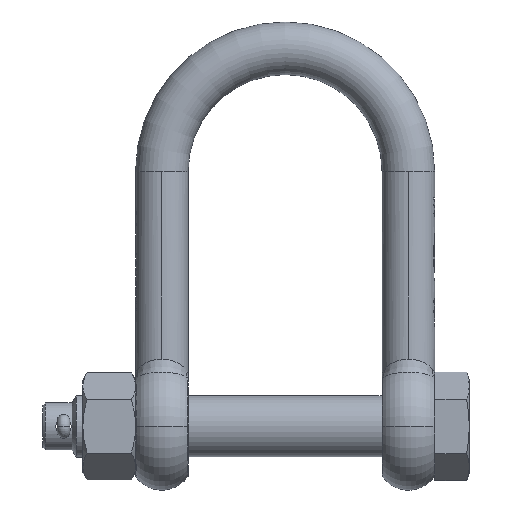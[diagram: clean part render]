
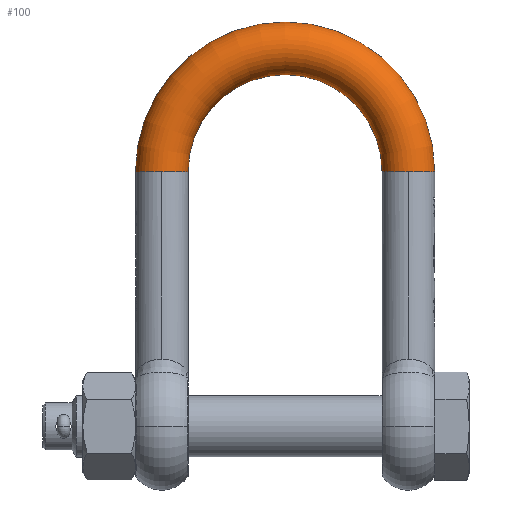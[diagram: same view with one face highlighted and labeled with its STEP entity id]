
A CAD part, top view. The second image highlights one B-rep face of the part: STEP entity #100.
In plain terms, the highlighted toroidal (fillet/blend) face has major radius 44.5 mm and minor radius 9.5 mm.
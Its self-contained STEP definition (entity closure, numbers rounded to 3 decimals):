
#100=ADVANCED_FACE('',(#661),#662,.T.);
#661=FACE_OUTER_BOUND('',#1828,.T.);
#662=TOROIDAL_SURFACE('',#1829,44.5,9.5);
#1828=EDGE_LOOP('',(#7163,#7164,#7165,#7166,#7167,#7168));
#1829=AXIS2_PLACEMENT_3D('',#7169,#7170,#7171);
#7163=ORIENTED_EDGE('',*,*,#11258,.F.);
#7164=ORIENTED_EDGE('',*,*,#11259,.T.);
#7165=ORIENTED_EDGE('',*,*,#11260,.T.);
#7166=ORIENTED_EDGE('',*,*,#11261,.T.);
#7167=ORIENTED_EDGE('',*,*,#11262,.F.);
#7168=ORIENTED_EDGE('',*,*,#11263,.F.);
#7169=CARTESIAN_POINT('',(0.0,92.0,0.0));
#7170=DIRECTION('',(0.0,0.0,1.0));
#7171=DIRECTION('',(1.0,0.0,0.0));
#11258=EDGE_CURVE('',#12663,#12664,#12665,.T.);
#11259=EDGE_CURVE('',#12663,#12666,#12667,.T.);
#11260=EDGE_CURVE('',#12666,#12668,#12669,.T.);
#11261=EDGE_CURVE('',#12668,#12670,#12671,.T.);
#11262=EDGE_CURVE('',#12672,#12670,#12673,.T.);
#11263=EDGE_CURVE('',#12664,#12672,#12674,.T.);
#12663=VERTEX_POINT('',#14972);
#12664=VERTEX_POINT('',#14973);
#12665=CIRCLE('',#14974,9.5);
#12666=VERTEX_POINT('',#14975);
#12667=CIRCLE('',#14976,54.0);
#12668=VERTEX_POINT('',#14977);
#12669=CIRCLE('',#14978,9.5);
#12670=VERTEX_POINT('',#14979);
#12671=CIRCLE('',#14980,9.5);
#12672=VERTEX_POINT('',#14981);
#12673=CIRCLE('',#14982,35.0);
#12674=CIRCLE('',#14983,9.5);
#14972=CARTESIAN_POINT('',(54.0,92.0,0.0));
#14973=CARTESIAN_POINT('',(44.5,92.0,9.5));
#14974=AXIS2_PLACEMENT_3D('',#22254,#22255,#22256);
#14975=CARTESIAN_POINT('',(-54.0,92.0,0.0));
#14976=AXIS2_PLACEMENT_3D('',#22257,#22258,#22259);
#14977=CARTESIAN_POINT('',(-44.5,92.0,9.5));
#14978=AXIS2_PLACEMENT_3D('',#22260,#22261,#22262);
#14979=CARTESIAN_POINT('',(-35.0,92.0,0.));
#14980=AXIS2_PLACEMENT_3D('',#22263,#22264,#22265);
#14981=CARTESIAN_POINT('',(35.0,92.0,0.));
#14982=AXIS2_PLACEMENT_3D('',#22266,#22267,#22268);
#14983=AXIS2_PLACEMENT_3D('',#22269,#22270,#22271);
#22254=CARTESIAN_POINT('',(44.5,92.0,0.0));
#22255=DIRECTION('',(0.,-1.0,-0.0));
#22256=DIRECTION('',(0.0,0.0,-1.0));
#22257=CARTESIAN_POINT('',(0.0,92.0,0.0));
#22258=DIRECTION('',(0.0,0.0,1.0));
#22259=DIRECTION('',(1.0,0.0,0.0));
#22260=CARTESIAN_POINT('',(-44.5,92.0,0.0));
#22261=DIRECTION('',(0.,1.0,0.0));
#22262=DIRECTION('',(0.0,0.0,-1.0));
#22263=CARTESIAN_POINT('',(-44.5,92.0,0.0));
#22264=DIRECTION('',(0.,1.0,0.0));
#22265=DIRECTION('',(0.0,0.0,-1.0));
#22266=CARTESIAN_POINT('',(0.0,92.0,0.));
#22267=DIRECTION('',(0.0,0.0,1.0));
#22268=DIRECTION('',(1.0,0.0,0.0));
#22269=CARTESIAN_POINT('',(44.5,92.0,0.0));
#22270=DIRECTION('',(0.,-1.0,-0.0));
#22271=DIRECTION('',(0.0,0.0,-1.0));
